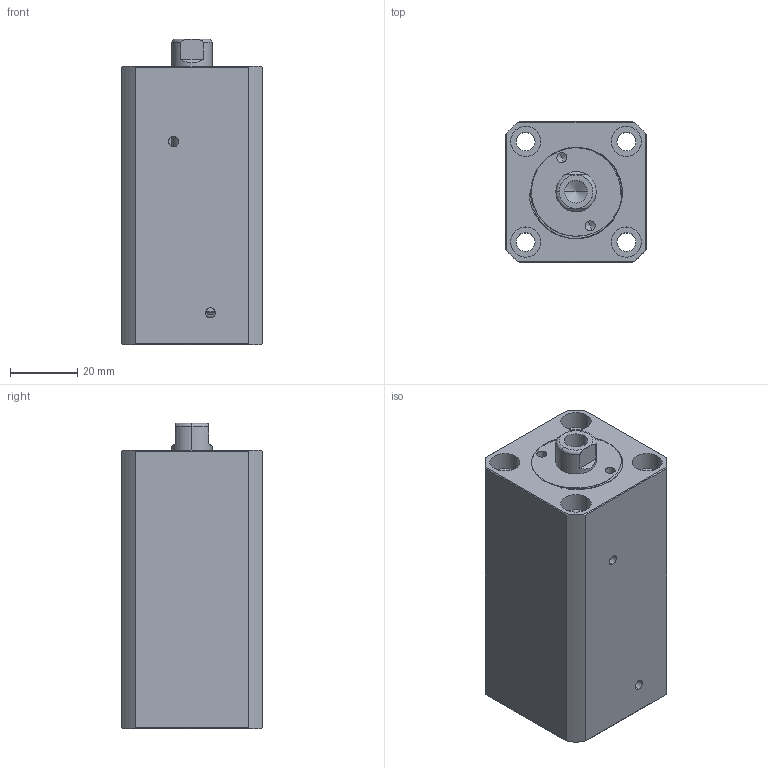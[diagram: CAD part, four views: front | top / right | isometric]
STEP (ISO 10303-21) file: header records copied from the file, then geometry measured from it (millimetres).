
FILE_DESCRIPTION (( 'STEP AP214' ), '1' );
FILE_NAME ('chtb-sdmb20x40n_asm.STEP', '2018-05-18T08:27:33', ( 'Windows' ), ( 'Microsoft' ), 'SwSTEP 2.0', 'SolidWorks 2015', '' );
FILE_SCHEMA (( 'AUTOMOTIVE_DESIGN' ));
Length unit declared in the file: millimetre
Products named in the file (4): QG_3; CHTB-SDMB20X40NHSG; CHTB-SDMB20X40NBT; chtb-sdmb20x40n_asm
Assembly tree (3 placements, depth 2):
  chtb-sdmb20x40n_asm
    CHTB-SDMB20X40NBT
    CHTB-SDMB20X40NHSG
    QG_3
Bounding box: 42 x 42 x 91 mm (x, y, z)
Volume: 124254 mm3; surface area: 37831.3 mm2
Topology: 3 solids, 3 shells, 201 faces, 535 edges, 354 vertices
Faces by surface type: cylinder 106, plane 43, torus 25, bspline 21, cone 6
Entity records: 11558 total; most frequent: CARTESIAN_POINT 6663, ORIENTED_EDGE 1058, DIRECTION 922, EDGE_CURVE 529, AXIS2_PLACEMENT_3D 388, VERTEX_POINT 354, EDGE_LOOP 239, CIRCLE 202
